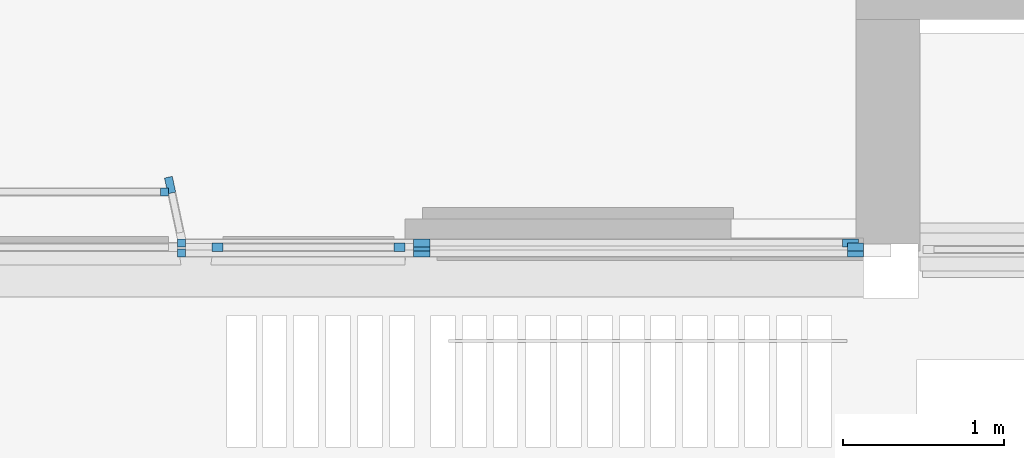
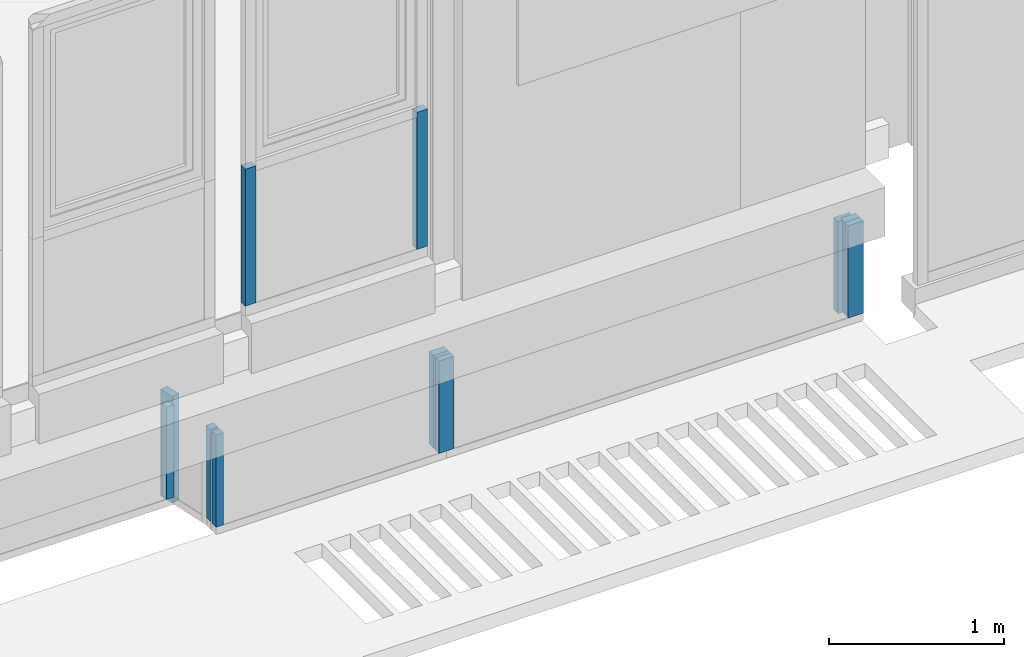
# One storey, part 19 of 97: 12 members, 6 elements without a shape of their own.
"""IFC4 building model written with IfcOpenShell, lengths in metres."""

from ifc_helpers import new_model, entity, si_unit, converted_unit, derived_unit, direction, frame, origin, place, context, subcontext, project, spatial, indexed_curve, outline, extrude, source, transform, mapped, material, type_object, type_shapes, element, aggregate, save


model = new_model("IFC4")

# Units and contexts
model_context = context("Model", 3, precision=1e-05, world=origin(), true_north=direction((6.12303176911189e-17, 1.0)))
body_context = subcontext(model_context, "Body", "Model", "MODEL_VIEW")
ifc_project = project(units=[si_unit("LENGTHUNIT", "METRE"), si_unit("AREAUNIT", "SQUARE_METRE"), si_unit("VOLUMEUNIT", "CUBIC_METRE"), converted_unit("PLANEANGLEUNIT", "DEGREE", entity("IfcRatioMeasure", 0.0174532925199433), si_unit("PLANEANGLEUNIT", "RADIAN"), dimensions=[0, 0, 0, 0, 0, 0, 0]), si_unit("MASSUNIT", "GRAM", prefix="KILO"), derived_unit("MASSDENSITYUNIT", [(si_unit("MASSUNIT", "GRAM", prefix="KILO"), 1), (si_unit("LENGTHUNIT", "METRE"), -3)]), derived_unit("MOMENTOFINERTIAUNIT", [(si_unit("LENGTHUNIT", "METRE"), 4)]), si_unit("TIMEUNIT", "SECOND"), si_unit("FREQUENCYUNIT", "HERTZ"), si_unit("THERMODYNAMICTEMPERATUREUNIT", "DEGREE_CELSIUS"), derived_unit("THERMALTRANSMITTANCEUNIT", [(si_unit("MASSUNIT", "GRAM", prefix="KILO"), 1), (si_unit("THERMODYNAMICTEMPERATUREUNIT", "KELVIN"), -1), (si_unit("TIMEUNIT", "SECOND"), -3)]), derived_unit("VOLUMETRICFLOWRATEUNIT", [(si_unit("LENGTHUNIT", "METRE"), 3), (si_unit("TIMEUNIT", "SECOND"), -1)]), si_unit("ELECTRICCURRENTUNIT", "AMPERE"), si_unit("ELECTRICVOLTAGEUNIT", "VOLT"), si_unit("POWERUNIT", "WATT"), si_unit("FORCEUNIT", "NEWTON", prefix="KILO"), si_unit("ILLUMINANCEUNIT", "LUX"), si_unit("LUMINOUSFLUXUNIT", "LUMEN"), si_unit("LUMINOUSINTENSITYUNIT", "CANDELA"), derived_unit("USERDEFINED", [(si_unit("MASSUNIT", "GRAM", prefix="KILO"), -1), (si_unit("LENGTHUNIT", "METRE"), -2), (si_unit("TIMEUNIT", "SECOND"), 3), (si_unit("LUMINOUSFLUXUNIT", "LUMEN"), 1)]), derived_unit("LINEARVELOCITYUNIT", [(si_unit("LENGTHUNIT", "METRE"), 1), (si_unit("TIMEUNIT", "SECOND"), -1)]), si_unit("PRESSUREUNIT", "PASCAL"), derived_unit("USERDEFINED", [(si_unit("LENGTHUNIT", "METRE"), -2), (si_unit("MASSUNIT", "GRAM", prefix="KILO"), 1), (si_unit("TIMEUNIT", "SECOND"), -2)]), derived_unit("LINEARFORCEUNIT", [(si_unit("MASSUNIT", "GRAM", prefix="KILO"), 1), (si_unit("LENGTHUNIT", "METRE"), 1), (si_unit("TIMEUNIT", "SECOND"), -2), (si_unit("LENGTHUNIT", "METRE"), -1)]), derived_unit("PLANARFORCEUNIT", [(si_unit("MASSUNIT", "GRAM", prefix="KILO"), 1), (si_unit("LENGTHUNIT", "METRE"), 1), (si_unit("TIMEUNIT", "SECOND"), -2), (si_unit("LENGTHUNIT", "METRE"), -2)])], contexts=[model_context])

# Site, building, storey
site_placement = place(None, origin())
site = spatial("IfcSite", under=ifc_project, at=site_placement, Name="Default", CompositionType="ELEMENT")
building_placement = place(site_placement, origin())
building = spatial("IfcBuilding", under=site, at=building_placement, Name="HOTEL CONSULAIRE BOULOGNE SUR MER", CompositionType="ELEMENT")
storey_placement = place(building_placement, frame((0.0, 0.0, 3.62152697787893)))
storey = spatial("IfcBuildingStorey", under=building, at=storey_placement, Name="Niveau 1", CompositionType="ELEMENT", Elevation=3.62152697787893)

# Curtain wall, member
curtain_wall_type = type_object("IfcCurtainWallType", Name="Mur-rideau:Simple panneau", PredefinedType="NOTDEFINED")
curtain_wall_1_placement = place(storey_placement, frame((0.0, 0.0, -3.62152697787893)))
curtain_wall_1 = element("IfcCurtainWall", 1, at=curtain_wall_1_placement, inside=storey, type_object=curtain_wall_type, Name="Mur-rideau:Simple panneau", ObjectType="Mur-rideau:Simple panneau", PredefinedType="NOTDEFINED")
ifc_material = material(Name="PVC - Blanc", Category="Plastique")
member_type_1 = type_object("IfcMemberType", Name="Meneau rectangulaire:50 x 25mm", PredefinedType="MULLION", material=ifc_material)
shared_shape_1 = source(origin(), body_context, "Body", "SweptSolid", [
    extrude(outline(indexed_curve([(-0.025, -0.025), (0.025, -0.025), (0.025, 0.025), (-0.025, 0.025), (-0.025, -0.025)], self_intersect=False)), frame((-0.025, -0.025, -0.642526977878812), z_axis=(0.0, 0.0, 1.0), x_axis=(0.0, -1.0, 0.0)), (0.0, 0.0, 1.0), 0.642526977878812),
])
type_shapes(member_type_1, [shared_shape_1])
member_1_placement = place(storey_placement, frame((7.04517677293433, -29.6370671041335, -0.61300000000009), z_axis=(0.0, 0.0, 1.0), x_axis=(-1.0, 0.0, 0.0)))
member_1 = element("IfcMember", 2, at=member_1_placement, type_object=member_type_1, material=ifc_material, Name="Meneau rectangulaire:50 x 25mm", ObjectType="Meneau rectangulaire:50 x 25mm", PredefinedType="MULLION", context=body_context, shape_type="MappedRepresentation", body=[
    mapped(shared_shape_1, transform((0.0, 0.0, 0.0), scale=1.0)),
])

curtain_wall_2_placement = place(storey_placement, frame((0.0, 0.0, -3.62152697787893)))
curtain_wall_2 = element("IfcCurtainWall", 3, at=curtain_wall_2_placement, inside=storey, type_object=curtain_wall_type, Name="Mur-rideau:Simple panneau", ObjectType="Mur-rideau:Simple panneau", PredefinedType="NOTDEFINED")
member_2_placement = place(storey_placement, frame((7.04517677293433, -29.5723138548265, -0.61300000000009), z_axis=(0.0, 0.0, 1.0), x_axis=(-1.0, 0.0, 0.0)))
member_2 = element("IfcMember", 4, at=member_2_placement, type_object=member_type_1, material=ifc_material, Name="Meneau rectangulaire:50 x 25mm", ObjectType="Meneau rectangulaire:50 x 25mm", PredefinedType="MULLION", context=body_context, shape_type="MappedRepresentation", body=[
    mapped(shared_shape_1, transform((0.0, 0.0, 0.0), scale=1.0)),
])

curtain_wall_3_placement = place(storey_placement, frame((0.0, 0.0, -3.62152697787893)))
curtain_wall_3 = element("IfcCurtainWall", 5, at=curtain_wall_3_placement, inside=storey, type_object=curtain_wall_type, Name="Mur-rideau:Simple panneau", ObjectType="Mur-rideau:Simple panneau", PredefinedType="NOTDEFINED")
member_type_2 = type_object("IfcMemberType", Name="Meneau rectangulaire:50 x 50 mm", PredefinedType="MULLION", material=ifc_material)
shared_shape_2 = source(origin(), body_context, "Body", "SweptSolid", [
    extrude(outline(indexed_curve([(-0.025, -0.05), (0.025, -0.05), (0.025, 0.05), (-0.025, 0.05), (-0.025, -0.05)], self_intersect=False)), frame((-0.05, -0.025, -0.642526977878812), z_axis=(0.0, 0.0, 1.0), x_axis=(0.0, -1.0, 0.0)), (0.0, 0.0, 1.0), 0.642526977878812),
])
type_shapes(member_type_2, [shared_shape_2])
member_3_placement = place(storey_placement, frame((11.3066382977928, -29.5980671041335, -1.2555269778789), z_axis=(0.0, 0.0, -1.0), x_axis=(1.0, 0.0, 0.0)))
member_3 = element("IfcMember", 6, at=member_3_placement, type_object=member_type_2, material=ifc_material, Name="Meneau rectangulaire:50 x 50 mm", ObjectType="Meneau rectangulaire:50 x 50 mm", PredefinedType="MULLION", context=body_context, shape_type="MappedRepresentation", body=[
    mapped(shared_shape_2, transform((0.0, 0.0, 0.0), scale=1.0)),
])

# Member
member_4_placement = place(storey_placement, frame((11.3066382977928, -29.6370671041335, -1.2555269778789), z_axis=(0.0, 0.0, -1.0), x_axis=(1.0, 0.0, 0.0)))
member_4 = element("IfcMember", 7, at=member_4_placement, type_object=member_type_2, material=ifc_material, Name="Meneau rectangulaire:50 x 50 mm", ObjectType="Meneau rectangulaire:50 x 50 mm", PredefinedType="MULLION", context=body_context, shape_type="MappedRepresentation", body=[
    mapped(shared_shape_2, transform((0.0, 0.0, 0.0), scale=1.0)),
])

member_5_placement = place(storey_placement, frame((11.2770009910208, -29.5723138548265, -1.2555269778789), z_axis=(0.0, 0.0, -1.0), x_axis=(1.0, 0.0, 0.0)))
member_5 = element("IfcMember", 8, at=member_5_placement, type_object=member_type_2, material=ifc_material, Name="Meneau rectangulaire:50 x 50 mm", ObjectType="Meneau rectangulaire:50 x 50 mm", PredefinedType="MULLION", context=body_context, shape_type="MappedRepresentation", body=[
    mapped(shared_shape_2, transform((0.0, 0.0, 0.0), scale=1.0)),
])

member_type_3 = type_object("IfcMemberType", Name="Meneau rectangulaire:50 x 50 mm", PredefinedType="MULLION", material=ifc_material)
shared_shape_3 = source(origin(), body_context, "Body", "SweptSolid", [
    extrude(outline(indexed_curve([(-0.025, -0.05), (0.025, -0.05), (0.025, 0.05), (-0.025, 0.05), (-0.025, -0.05)], self_intersect=False)), frame((0.0, -0.025, -0.642526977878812), z_axis=(0.0, 0.0, 1.0), x_axis=(0.0, -1.0, 0.0)), (0.0, 0.0, 1.0), 0.642526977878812),
])
type_shapes(member_type_3, [shared_shape_3])
member_6_placement = place(storey_placement, frame((8.56217677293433, -29.5980671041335, -1.2555269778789), z_axis=(0.0, 0.0, -1.0), x_axis=(1.0, 0.0, 0.0)))
member_6 = element("IfcMember", 9, at=member_6_placement, type_object=member_type_3, material=ifc_material, Name="Meneau rectangulaire:50 x 50 mm", ObjectType="Meneau rectangulaire:50 x 50 mm", PredefinedType="MULLION", context=body_context, shape_type="MappedRepresentation", body=[
    mapped(shared_shape_3, transform((0.0, 0.0, 0.0), scale=1.0)),
])

aggregate(curtain_wall_3, [member_3, member_6])

member_7_placement = place(storey_placement, frame((8.56217677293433, -29.6370671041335, -1.2555269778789), z_axis=(0.0, 0.0, -1.0), x_axis=(1.0, 0.0, 0.0)))
member_7 = element("IfcMember", 10, at=member_7_placement, type_object=member_type_3, material=ifc_material, Name="Meneau rectangulaire:50 x 50 mm", ObjectType="Meneau rectangulaire:50 x 50 mm", PredefinedType="MULLION", context=body_context, shape_type="MappedRepresentation", body=[
    mapped(shared_shape_3, transform((0.0, 0.0, 0.0), scale=1.0)),
])

aggregate(curtain_wall_1, [member_1, member_4, member_7])

member_8_placement = place(storey_placement, frame((8.56217677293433, -29.5723138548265, -1.2555269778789), z_axis=(0.0, 0.0, -1.0), x_axis=(1.0, 0.0, 0.0)))
member_8 = element("IfcMember", 11, at=member_8_placement, type_object=member_type_3, material=ifc_material, Name="Meneau rectangulaire:50 x 50 mm", ObjectType="Meneau rectangulaire:50 x 50 mm", PredefinedType="MULLION", context=body_context, shape_type="MappedRepresentation", body=[
    mapped(shared_shape_3, transform((0.0, 0.0, 0.0), scale=1.0)),
])

aggregate(curtain_wall_2, [member_2, member_5, member_8])

# Curtain wall, member
curtain_wall_4_placement = place(storey_placement, frame((0.0, 0.0, -3.62152697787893)))
curtain_wall_4 = element("IfcCurtainWall", 12, at=curtain_wall_4_placement, inside=storey, type_object=curtain_wall_type, Name="Mur-rideau:Simple panneau", ObjectType="Mur-rideau:Simple panneau", PredefinedType="NOTDEFINED")
member_type_4 = type_object("IfcMemberType", Name="Meneau rectangulaire:50 x 50 mm", PredefinedType="MULLION", material=ifc_material)
shared_shape_4 = source(origin(), body_context, "Body", "SweptSolid", [
    extrude(outline(indexed_curve([(-0.025, -0.05), (0.025, -0.05), (0.025, 0.05), (-0.025, 0.05), (-0.025, -0.05)], self_intersect=False)), frame((-0.05, 0.025, -0.742526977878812), z_axis=(0.0, 0.0, 1.0), x_axis=(0.0, -1.0, 0.0)), (0.0, 0.0, 1.0), 0.742526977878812),
])
type_shapes(member_type_4, [shared_shape_4])
member_9_placement = place(storey_placement, frame((6.96341299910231, -29.1450702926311, -1.3055269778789), z_axis=(0.0, 0.0, -1.0), x_axis=(-0.207911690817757, 0.978147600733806, 0.0)))
member_9 = element("IfcMember", 13, at=member_9_placement, type_object=member_type_4, material=ifc_material, Name="Meneau rectangulaire:50 x 50 mm", ObjectType="Meneau rectangulaire:50 x 50 mm", PredefinedType="MULLION", context=body_context, shape_type="MappedRepresentation", body=[
    mapped(shared_shape_4, transform((0.0, 0.0, 0.0), scale=1.0)),
])
aggregate(curtain_wall_4, [member_9])

curtain_wall_5_placement = place(storey_placement, frame((0.0, 0.0, -3.62152697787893)))
curtain_wall_5 = element("IfcCurtainWall", 14, at=curtain_wall_5_placement, inside=storey, type_object=curtain_wall_type, Name="Mur-rideau:Simple panneau", ObjectType="Mur-rideau:Simple panneau", PredefinedType="NOTDEFINED")
member_type_5 = type_object("IfcMemberType", Name="Meneau rectangulaire:50 x 25mm", PredefinedType="MULLION", material=ifc_material)
shared_shape_5 = source(origin(), body_context, "Body", "SweptSolid", [
    extrude(outline(indexed_curve([(-0.025, -0.025), (0.025, -0.025), (0.025, 0.025), (-0.025, 0.025), (-0.025, -0.025)], self_intersect=False)), frame((-0.025, -0.025, -0.642526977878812), z_axis=(0.0, 0.0, 1.0), x_axis=(0.0, -1.0, 0.0)), (0.0, 0.0, 1.0), 0.642526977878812),
])
type_shapes(member_type_5, [shared_shape_5])
member_10_placement = place(storey_placement, frame((6.98913741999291, -29.2557686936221, -1.2555269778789), z_axis=(0.0, 0.0, -1.0), x_axis=(1.0, 0.0, 0.0)))
member_10 = element("IfcMember", 15, at=member_10_placement, type_object=member_type_5, material=ifc_material, Name="Meneau rectangulaire:50 x 25mm", ObjectType="Meneau rectangulaire:50 x 25mm", PredefinedType="MULLION", context=body_context, shape_type="MappedRepresentation", body=[
    mapped(shared_shape_5, transform((0.0, 0.0, 0.0), scale=1.0)),
])
aggregate(curtain_wall_5, [member_10])

# Curtain wall, members
curtain_wall_6_placement = place(storey_placement, frame((0.0, 0.0, -3.62152697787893)))
curtain_wall_6 = element("IfcCurtainWall", 16, at=curtain_wall_6_placement, inside=storey, type_object=curtain_wall_type, Name="Mur-rideau:Simple panneau", ObjectType="Mur-rideau:Simple panneau", PredefinedType="NOTDEFINED")
member_type_6 = type_object("IfcMemberType", Name="Meneau rectangulaire:50 x 35", PredefinedType="MULLION", material=ifc_material)
shared_shape_6 = source(origin(), body_context, "Body", "SweptSolid", [
    extrude(outline(indexed_curve([(-0.025, -0.035), (0.025, -0.035), (0.025, 0.035), (-0.025, 0.035), (-0.025, -0.035)], self_intersect=False)), frame((-0.035, -0.025, -0.954), z_axis=(0.0, 0.0, 1.0), x_axis=(0.0, -1.0, 0.0)), (0.0, 0.0, 1.0), 0.954),
])
type_shapes(member_type_6, [shared_shape_6])
member_11_placement = place(storey_placement, frame((7.25858002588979, -29.5501047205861, 0.186102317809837), z_axis=(0.0, 0.0, -1.0), x_axis=(-1.0, 0.0, 0.0)))
member_11 = element("IfcMember", 17, at=member_11_placement, type_object=member_type_6, material=ifc_material, Name="Meneau rectangulaire:50 x 35", ObjectType="Meneau rectangulaire:50 x 35", PredefinedType="MULLION", context=body_context, shape_type="MappedRepresentation", body=[
    mapped(shared_shape_6, transform((0.0, 0.0, 0.0), scale=1.0)),
])
member_type_7 = type_object("IfcMemberType", Name="Meneau rectangulaire:50 x 35", PredefinedType="MULLION", material=ifc_material)
shared_shape_7 = source(origin(), body_context, "Body", "SweptSolid", [
    extrude(outline(indexed_curve([(-0.025, -0.035), (0.025, -0.035), (0.025, 0.035), (-0.025, 0.035), (-0.025, -0.035)], self_intersect=False)), frame((-0.035, -0.025, -0.954), z_axis=(0.0, 0.0, 1.0), x_axis=(0.0, -1.0, 0.0)), (0.0, 0.0, 1.0), 0.954),
])
type_shapes(member_type_7, [shared_shape_7])
member_12_placement = place(storey_placement, frame((8.45858002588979, -29.5501047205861, 1.14010231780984)))
member_12 = element("IfcMember", 18, at=member_12_placement, type_object=member_type_7, material=ifc_material, Name="Meneau rectangulaire:50 x 35", ObjectType="Meneau rectangulaire:50 x 35", PredefinedType="MULLION", context=body_context, shape_type="MappedRepresentation", body=[
    mapped(shared_shape_7, transform((0.0, 0.0, 0.0), scale=1.0)),
])
aggregate(curtain_wall_6, [member_11, member_12])

save(model, "model.ifc")
